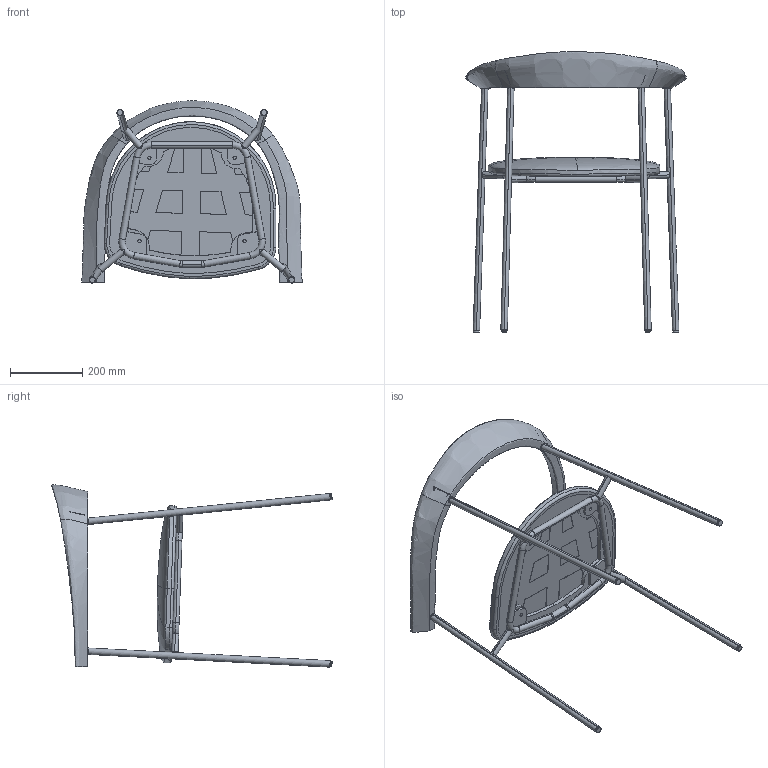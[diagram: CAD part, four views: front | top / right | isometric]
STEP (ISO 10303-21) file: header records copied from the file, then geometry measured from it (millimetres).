
FILE_DESCRIPTION (( 'STEP AP203' ), '1' );
FILE_NAME ('Nauvik_24_11_2023.STEP', '2023-11-24T13:48:19', ( '' ), ( '' ), 'SwSTEP 2.0', 'SolidWorks 2021', '' );
FILE_SCHEMA (( 'CONFIG_CONTROL_DESIGN' ));
Length unit declared in the file: millimetre
Products named in the file (6): Metalna baza 17_8; KLIZAÈ 18 x 5 FILC SMART; Nauvik v7.step; Nauvik_24_11_2023; Cold_foam; špera zadnje
Assembly tree (8 placements, depth 2):
  Nauvik_24_11_2023
    Nauvik v7.step
    KLIZAÈ 18 x 5 FILC SMART  x4
    Cold_foam
    Metalna baza 17_8
    špera zadnje
Bounding box: 608.83 x 775.16 x 503.86 mm (x, y, z)
Volume: 8324349.7 mm3; surface area: 1220473.6 mm2
Topology: 18 solids, 18 shells, 353 faces, 852 edges, 561 vertices
Faces by surface type: cylinder 167, plane 151, torus 23, bspline 12
Entity records: 67182 total; most frequent: CARTESIAN_POINT 58659, DIRECTION 1667, ORIENTED_EDGE 1584, EDGE_CURVE 792, AXIS2_PLACEMENT_3D 636, VERTEX_POINT 525, LINE 395, VECTOR 395
